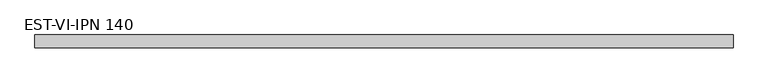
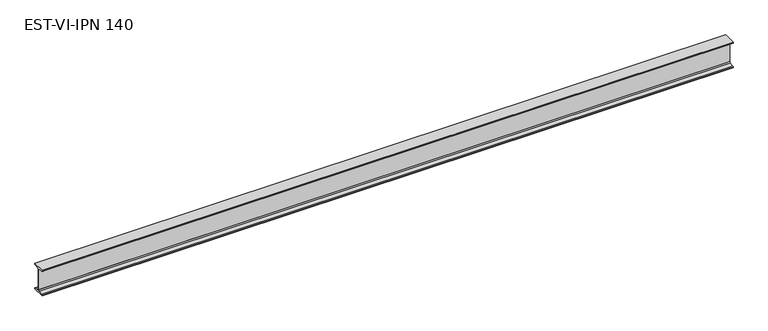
"""IFC4 building model written with IfcOpenShell, lengths in millimetres: beam geometry, EST-VI-PNI-Acero : EST-VI-IPN 140."""

from ifc_helpers import new_model, si_unit, point, frame, frame_2d, origin, place, context, project, spatial, polyline, circle_curve, trimmed, segment, composite_curve, outline, extrude, source, transform, mapped, element, save


def est_vi_ipn_140_83a7d586(model_context):
    return source(origin(), model_context, "Body", "SweptSolid", [
        extrude(outline(composite_curve([segment(polyline([(33.0, 70.0), (33.0, 66.6671583)]), True, "CONTINUOUS"), segment(trimmed(circle_curve(frame_2d((29.6, 66.6671583)), 3.4), [point((33.0, 66.6671583))], [point((30.0714027, 63.2999964))], False, "CARTESIAN"), True, "CONTINUOUS"), segment(polyline([(30.0714027, 63.2999964), (7.7597073, 60.176359)]), True, "CONTINUOUS"), segment(trimmed(circle_curve(frame_2d((8.55, 54.5314111)), 5.7), [point((7.7597073, 60.176359))], [point((2.85, 54.5314111))], True, "CARTESIAN"), True, "CONTINUOUS"), segment(polyline([(2.85, 54.5314111), (2.85, -54.5314111)]), True, "CONTINUOUS"), segment(trimmed(circle_curve(frame_2d((8.55, -54.5314111)), 5.7), [point((2.85, -54.5314111))], [point((7.7597073, -60.176359))], True, "CARTESIAN"), True, "CONTINUOUS"), segment(polyline([(7.7597073, -60.176359), (30.0714027, -63.2999964)]), True, "CONTINUOUS"), segment(trimmed(circle_curve(frame_2d((29.6, -66.6671583)), 3.4), [point((30.0714027, -63.2999964))], [point((33.0, -66.6671583))], False, "CARTESIAN"), True, "CONTINUOUS"), segment(polyline([(33.0, -66.6671583), (33.0, -70.0), (-33.0, -70.0), (-33.0, -66.6671583)]), True, "CONTINUOUS"), segment(trimmed(circle_curve(frame_2d((-29.6, -66.6671583)), 3.4), [point((-33.0, -66.6671583))], [point((-30.0714027, -63.2999964))], False, "CARTESIAN"), True, "CONTINUOUS"), segment(polyline([(-30.0714027, -63.2999964), (-7.7597073, -60.176359)]), True, "CONTINUOUS"), segment(trimmed(circle_curve(frame_2d((-8.55, -54.5314111)), 5.7), [point((-7.7597073, -60.176359))], [point((-2.85, -54.5314111))], True, "CARTESIAN"), True, "CONTINUOUS"), segment(polyline([(-2.85, -54.5314111), (-2.85, 54.5314111)]), True, "CONTINUOUS"), segment(trimmed(circle_curve(frame_2d((-8.55, 54.5314111)), 5.7), [point((-2.85, 54.5314111))], [point((-7.7597073, 60.176359))], True, "CARTESIAN"), True, "CONTINUOUS"), segment(polyline([(-7.7597073, 60.176359), (-30.0714027, 63.2999964)]), True, "CONTINUOUS"), segment(trimmed(circle_curve(frame_2d((-29.6, 66.6671583)), 3.4), [point((-30.0714027, 63.2999964))], [point((-33.0, 66.6671583))], False, "CARTESIAN"), True, "CONTINUOUS"), segment(polyline([(-33.0, 66.6671583), (-33.0, 70.0), (33.0, 70.0)]), True, "CONTINUOUS")], self_intersect=False)), frame((-1918.5, 0.0, 0.0), z_axis=(1.0, 0.0, 0.0), x_axis=(0.0, 1.0, 0.0)), (0.0, 0.0, 1.0), 3593.0),
    ])


if __name__ == "__main__":
    model = new_model("IFC4")
    model_context = context("Model", 3, world=origin())
    ifc_project = project(units=[si_unit("LENGTHUNIT", "METRE", prefix="MILLI")], contexts=[model_context])
    site = spatial("IfcSite", under=ifc_project)
    building = spatial("IfcBuilding", under=site)
    placement = place(None, origin())
    est_vi_ipn_140_shape = est_vi_ipn_140_83a7d586(model_context)
    element("IfcBeam", 1, ObjectType="EST-VI-PNI-Acero : EST-VI-IPN 140", at=placement, inside=building, context=model_context, shape_type="MappedRepresentation", body=[
        mapped(est_vi_ipn_140_shape, transform((0.0, 0.0, 0.0), x_axis=(1.0, 0.0, 0.0), y_axis=(0.0, 1.0, 0.0), z_axis=(0.0, 0.0, 1.0))),
    ])
    save(model, "model.ifc")
